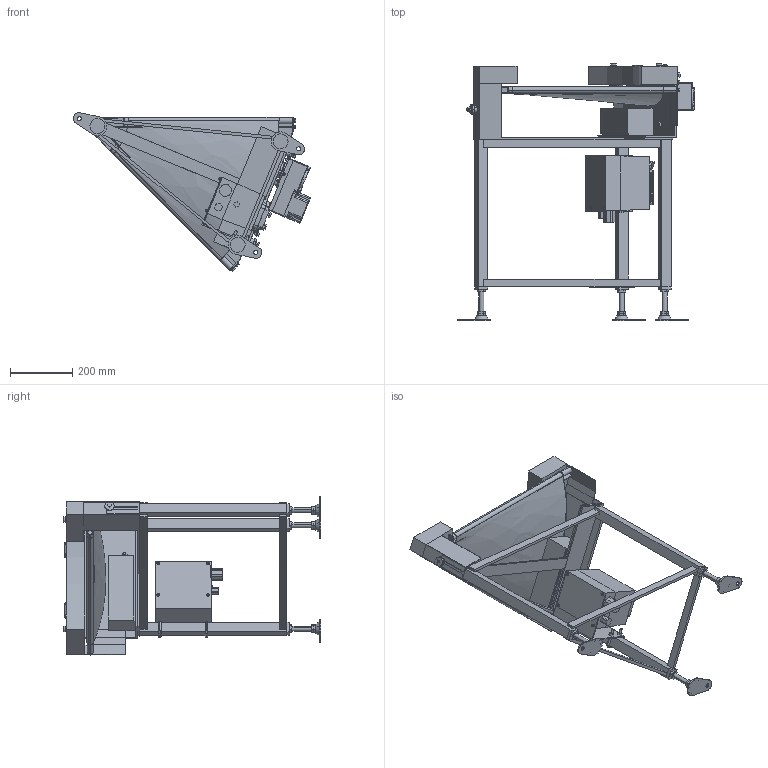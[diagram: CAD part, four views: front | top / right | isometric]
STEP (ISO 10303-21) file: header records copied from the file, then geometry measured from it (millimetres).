
FILE_DESCRIPTION (( 'STEP AP214' ), '1' );
FILE_NAME ('GFBC45-HS400-DC-R.STEP', '2024-01-18T01:33:50', ( '' ), ( '' ), 'SwSTEP 2.0', 'SolidWorks 2017', '' );
FILE_SCHEMA (( 'AUTOMOTIVE_DESIGN' ));
Length unit declared in the file: millimetre
Products named in the file (1): GFBC45-HS400-DC-R
Bounding box: 761.81 x 827.92 x 509.37 mm (x, y, z)
Volume: 14856013.4 mm3; surface area: 2684049.4 mm2
Topology: 65 solids, 66 shells, 1388 faces, 3267 edges, 2099 vertices
Faces by surface type: plane 880, cylinder 408, cone 40, bspline 36, torus 20, sphere 4
Entity records: 47105 total; most frequent: CARTESIAN_POINT 14089, DIRECTION 6735, ORIENTED_EDGE 6486, EDGE_CURVE 3243, AXIS2_PLACEMENT_3D 2294, VECTOR 2147, LINE 2147, VERTEX_POINT 2099
